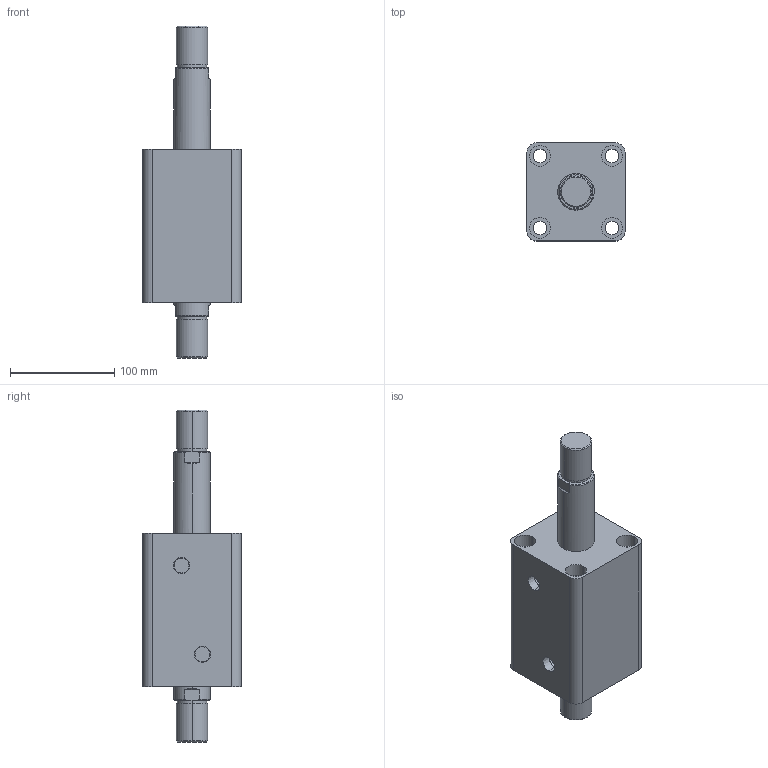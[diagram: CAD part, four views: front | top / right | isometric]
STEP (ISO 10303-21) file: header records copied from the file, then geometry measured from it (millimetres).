
FILE_DESCRIPTION (( 'STEP AP203' ), '1' );
FILE_NAME ('HTB-SW63-65W.STEP', '2019-10-07T10:07:00', ( '微软用户' ), ( '微软中国' ), 'SwSTEP 2.0', 'SolidWorks 2012', '' );
FILE_SCHEMA (( 'CONFIG_CONTROL_DESIGN' ));
Length unit declared in the file: millimetre
Products named in the file (3): HTB-SW63-65W; HTB-SW63-65W活塞杆; HTB-SW63-65掛极
Assembly tree (2 placements, depth 2):
  HTB-SW63-65W
    HTB-SW63-65掛极
    HTB-SW63-65W活塞杆
Bounding box: 94 x 94 x 318 mm (x, y, z)
Volume: 1190759.3 mm3; surface area: 164290.1 mm2
Topology: 2 solids, 2 shells, 108 faces, 240 edges, 156 vertices
Faces by surface type: cylinder 52, plane 36, torus 12, cone 8
Entity records: 3465 total; most frequent: CARTESIAN_POINT 645, DIRECTION 586, ORIENTED_EDGE 480, AXIS2_PLACEMENT_3D 249, EDGE_CURVE 240, VERTEX_POINT 156, EDGE_LOOP 138, CIRCLE 136
